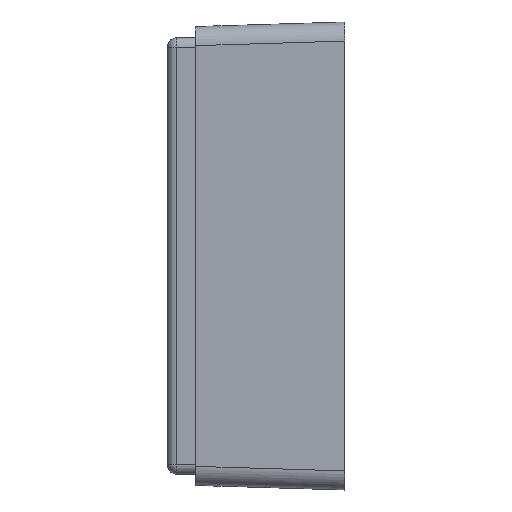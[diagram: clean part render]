
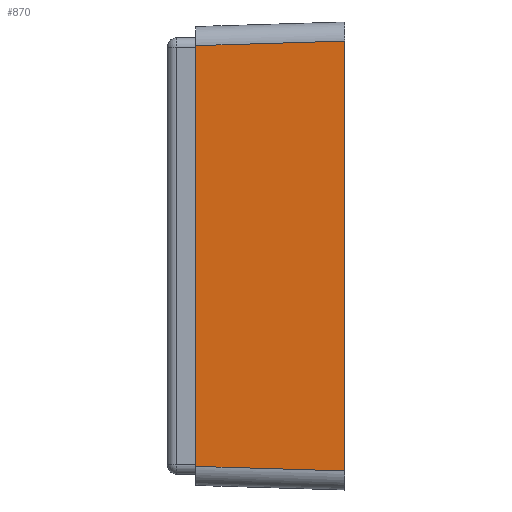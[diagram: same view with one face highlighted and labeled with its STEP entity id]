
A CAD part, left-side view. The second image highlights one B-rep face of the part: STEP entity #870.
In plain terms, the highlighted planar face has unit normal (-1, 0.03, 0).
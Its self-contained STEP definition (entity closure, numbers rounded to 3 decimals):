
#55 = VERTEX_POINT ( 'NONE', #852 ) ;
#62 = AXIS2_PLACEMENT_3D ( 'NONE', #1220, #1044, #1565 ) ;
#94 = EDGE_LOOP ( 'NONE', ( #1415, #1513, #1926, #283 ) ) ;
#133 = EDGE_CURVE ( 'NONE', #55, #2120, #888, .T. ) ;
#273 = VECTOR ( 'NONE', #1186, 1000. ) ;
#276 = LINE ( 'NONE', #1873, #273 ) ;
#283 = ORIENTED_EDGE ( 'NONE', *, *, #1241, .T. ) ;
#501 = VERTEX_POINT ( 'NONE', #1983 ) ;
#571 = CARTESIAN_POINT ( 'NONE',  ( -39.273, 15.6, 22.024 ) ) ;
#852 = CARTESIAN_POINT ( 'NONE',  ( -39.75, 0., 22.501 ) ) ;
#870 = ADVANCED_FACE ( 'NONE', ( #1409 ), #1290, .T. ) ;
#884 = VECTOR ( 'NONE', #1566, 1000. ) ;
#888 = LINE ( 'NONE', #1633, #884 ) ;
#950 = VECTOR ( 'NONE', #1529, 1000. ) ;
#1044 = DIRECTION ( 'NONE',  ( -1., 0.031, 0. ) ) ;
#1186 = DIRECTION ( 'NONE',  ( -0.031, -0.999, -0.031 ) ) ;
#1220 = CARTESIAN_POINT ( 'NONE',  ( -39.75, 0., -24.5 ) ) ;
#1241 = EDGE_CURVE ( 'NONE', #501, #1253, #276, .T. ) ;
#1253 = VERTEX_POINT ( 'NONE', #1949 ) ;
#1290 = PLANE ( 'NONE',  #62 ) ;
#1384 = CARTESIAN_POINT ( 'NONE',  ( -39.75, 0., -24.5 ) ) ;
#1400 = CARTESIAN_POINT ( 'NONE',  ( -39.273, 15.6, -24.5 ) ) ;
#1403 = EDGE_CURVE ( 'NONE', #1253, #55, #2071, .T. ) ;
#1409 = FACE_OUTER_BOUND ( 'NONE', #94, .T. ) ;
#1415 = ORIENTED_EDGE ( 'NONE', *, *, #1403, .T. ) ;
#1513 = ORIENTED_EDGE ( 'NONE', *, *, #133, .T. ) ;
#1529 = DIRECTION ( 'NONE',  ( 0., 0., 1. ) ) ;
#1565 = DIRECTION ( 'NONE',  ( -0.031, -1., 0. ) ) ;
#1566 = DIRECTION ( 'NONE',  ( 0.031, 0.999, -0.031 ) ) ;
#1633 = CARTESIAN_POINT ( 'NONE',  ( -39.706, 1.433, 22.457 ) ) ;
#1668 = LINE ( 'NONE', #1400, #950 ) ;
#1873 = CARTESIAN_POINT ( 'NONE',  ( -39.752, -0.061, -22.503 ) ) ;
#1926 = ORIENTED_EDGE ( 'NONE', *, *, #2064, .F. ) ;
#1949 = CARTESIAN_POINT ( 'NONE',  ( -39.75, 0., -22.501 ) ) ;
#1983 = CARTESIAN_POINT ( 'NONE',  ( -39.273, 15.6, -22.024 ) ) ;
#2000 = DIRECTION ( 'NONE',  ( 0., 0., 1. ) ) ;
#2064 = EDGE_CURVE ( 'NONE', #501, #2120, #1668, .T. ) ;
#2070 = VECTOR ( 'NONE', #2000, 1000. ) ;
#2071 = LINE ( 'NONE', #1384, #2070 ) ;
#2120 = VERTEX_POINT ( 'NONE', #571 ) ;
